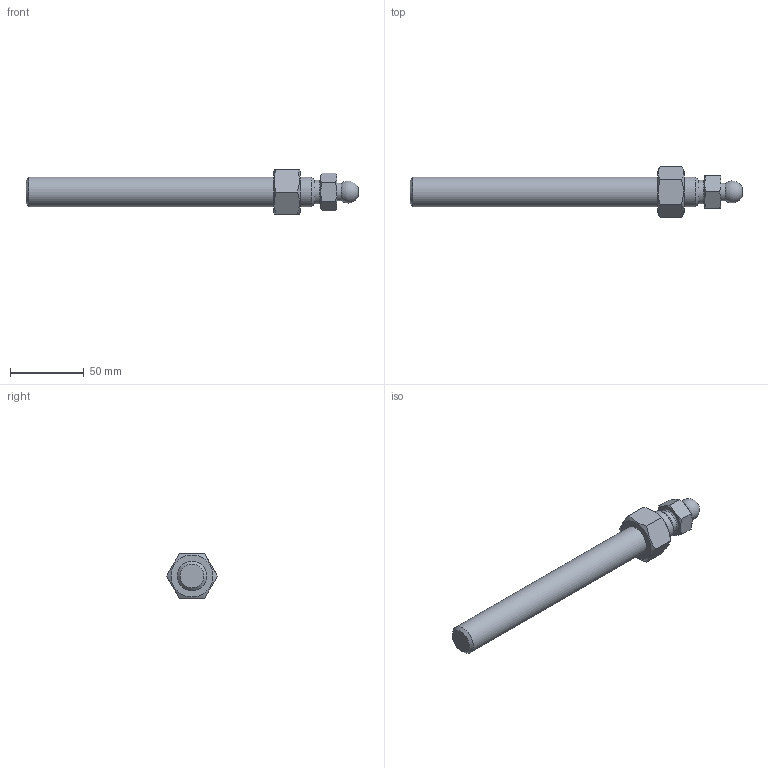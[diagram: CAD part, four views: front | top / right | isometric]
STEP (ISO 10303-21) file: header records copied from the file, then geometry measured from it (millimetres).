
FILE_DESCRIPTION(('STEP AP203'), '1');
FILE_NAME('A00020.120200', '', ('UNSPECIFIED'), ('UNSPECIFIED'), 'C3D Converter', 'C3D Toolkit', '');
FILE_SCHEMA(('CONFIG_CONTROL_DESIGN'));
Length unit declared in the file: millimetre
Products named in the file (2): A00020.120200
Assembly tree (1 placements, depth 2):
  A00020.120200
    (unnamed)
Bounding box: 225.3 x 34.64 x 30 mm (x, y, z)
Volume: 78200.4 mm3; surface area: 18479.3 mm2
Topology: 2 solids, 2 shells, 42 faces, 92 edges, 56 vertices
Faces by surface type: plane 18, cone 18, cylinder 4, sphere 1, torus 1
Full cylindrical faces by diameter (mm): 12 x1, 16 x1, 17.294 x1, 20 x1
Entity records: 2335 total; most frequent: CARTESIAN_POINT 1205, DIRECTION 160, ORIENTED_EDGE 156, EDGE_CURVE 78, AXIS2_PLACEMENT_3D 74, EDGE_LOOP 57, VERTEX_POINT 55, ADVANCED_FACE 41
